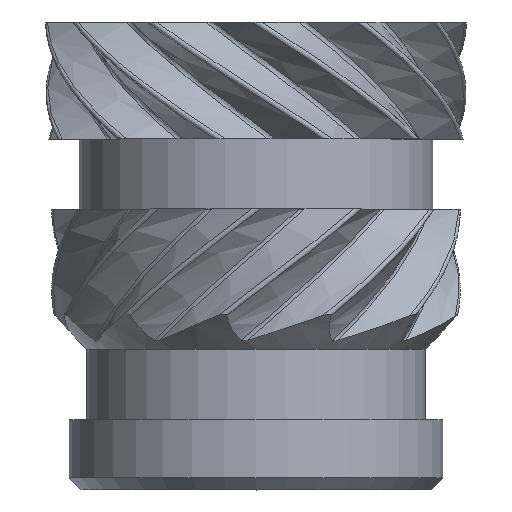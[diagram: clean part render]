
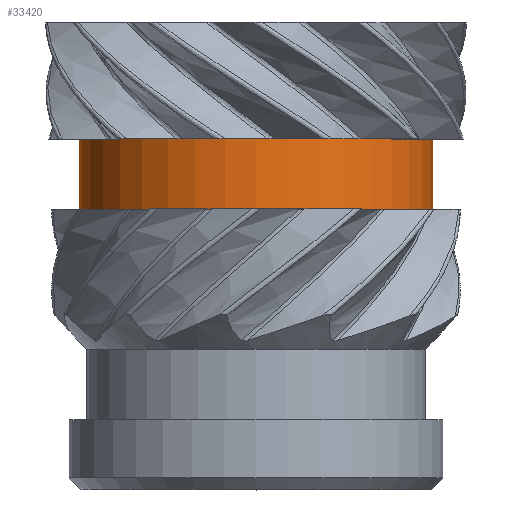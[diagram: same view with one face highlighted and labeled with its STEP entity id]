
A CAD part, top view. The second image highlights one B-rep face of the part: STEP entity #33420.
In plain terms, the highlighted cylindrical face has radius 1.515 mm (diameter 3.03 mm), a full revolution.
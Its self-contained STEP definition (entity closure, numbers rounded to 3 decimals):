
#19762 = PLANE('',#19763);
#19763 = AXIS2_PLACEMENT_3D('',#19764,#19765,#19766);
#19764 = CARTESIAN_POINT('',(-33.85,-8.8,-36.5));
#19765 = DIRECTION('',(0.,-1.,0.));
#19766 = DIRECTION('',(1.,0.,0.));
#23469 = EDGE_CURVE('',#23470,#23470,#23472,.T.);
#23470 = VERTEX_POINT('',#23471);
#23471 = CARTESIAN_POINT('',(-35.365,-8.8,-36.5));
#23472 = SURFACE_CURVE('',#23473,(#23478,#23485),.PCURVE_S1.);
#23473 = CIRCLE('',#23474,1.515);
#23474 = AXIS2_PLACEMENT_3D('',#23475,#23476,#23477);
#23475 = CARTESIAN_POINT('',(-33.85,-8.8,-36.5));
#23476 = DIRECTION('',(0.,-1.,0.));
#23477 = DIRECTION('',(1.,0.,0.));
#23478 = PCURVE('',#19762,#23479);
#23479 = DEFINITIONAL_REPRESENTATION('',(#23480),#23484);
#23480 = CIRCLE('',#23481,1.515);
#23481 = AXIS2_PLACEMENT_2D('',#23482,#23483);
#23482 = CARTESIAN_POINT('',(0.,0.));
#23483 = DIRECTION('',(1.,0.));
#23484 = ( GEOMETRIC_REPRESENTATION_CONTEXT(2) 
PARAMETRIC_REPRESENTATION_CONTEXT() REPRESENTATION_CONTEXT('2D SPACE',''
  ) );
#23485 = PCURVE('',#23486,#23491);
#23486 = CYLINDRICAL_SURFACE('',#23487,1.515);
#23487 = AXIS2_PLACEMENT_3D('',#23488,#23489,#23490);
#23488 = CARTESIAN_POINT('',(-33.85,-8.2,-36.5));
#23489 = DIRECTION('',(0.,-1.,0.));
#23490 = DIRECTION('',(1.,0.,0.));
#23491 = DEFINITIONAL_REPRESENTATION('',(#23492),#23496);
#23492 = LINE('',#23493,#23494);
#23493 = CARTESIAN_POINT('',(0.,0.6));
#23494 = VECTOR('',#23495,1.);
#23495 = DIRECTION('',(1.,0.));
#23496 = ( GEOMETRIC_REPRESENTATION_CONTEXT(2) 
PARAMETRIC_REPRESENTATION_CONTEXT() REPRESENTATION_CONTEXT('2D SPACE',''
  ) );
#33420 = ADVANCED_FACE('',(#33421),#23486,.T.);
#33421 = FACE_BOUND('',#33422,.T.);
#33422 = EDGE_LOOP('',(#33423,#33424,#33447,#33474));
#33423 = ORIENTED_EDGE('',*,*,#23469,.F.);
#33424 = ORIENTED_EDGE('',*,*,#33425,.T.);
#33425 = EDGE_CURVE('',#23470,#33426,#33428,.T.);
#33426 = VERTEX_POINT('',#33427);
#33427 = CARTESIAN_POINT('',(-35.365,-8.2,-36.5));
#33428 = SEAM_CURVE('',#33429,(#33433,#33440),.PCURVE_S1.);
#33429 = LINE('',#33430,#33431);
#33430 = CARTESIAN_POINT('',(-35.365,-8.2,-36.5));
#33431 = VECTOR('',#33432,1.);
#33432 = DIRECTION('',(0.,1.,0.));
#33433 = PCURVE('',#23486,#33434);
#33434 = DEFINITIONAL_REPRESENTATION('',(#33435),#33439);
#33435 = LINE('',#33436,#33437);
#33436 = CARTESIAN_POINT('',(3.142,0.));
#33437 = VECTOR('',#33438,1.);
#33438 = DIRECTION('',(0.,-1.));
#33439 = ( GEOMETRIC_REPRESENTATION_CONTEXT(2) 
PARAMETRIC_REPRESENTATION_CONTEXT() REPRESENTATION_CONTEXT('2D SPACE',''
  ) );
#33440 = PCURVE('',#23486,#33441);
#33441 = DEFINITIONAL_REPRESENTATION('',(#33442),#33446);
#33442 = LINE('',#33443,#33444);
#33443 = CARTESIAN_POINT('',(9.425,0.));
#33444 = VECTOR('',#33445,1.);
#33445 = DIRECTION('',(0.,-1.));
#33446 = ( GEOMETRIC_REPRESENTATION_CONTEXT(2) 
PARAMETRIC_REPRESENTATION_CONTEXT() REPRESENTATION_CONTEXT('2D SPACE',''
  ) );
#33447 = ORIENTED_EDGE('',*,*,#33448,.F.);
#33448 = EDGE_CURVE('',#33426,#33426,#33449,.T.);
#33449 = SURFACE_CURVE('',#33450,(#33455,#33462),.PCURVE_S1.);
#33450 = CIRCLE('',#33451,1.515);
#33451 = AXIS2_PLACEMENT_3D('',#33452,#33453,#33454);
#33452 = CARTESIAN_POINT('',(-33.85,-8.2,-36.5));
#33453 = DIRECTION('',(-0.,1.,0.));
#33454 = DIRECTION('',(1.,0.,0.));
#33455 = PCURVE('',#23486,#33456);
#33456 = DEFINITIONAL_REPRESENTATION('',(#33457),#33461);
#33457 = LINE('',#33458,#33459);
#33458 = CARTESIAN_POINT('',(12.566,0.));
#33459 = VECTOR('',#33460,1.);
#33460 = DIRECTION('',(-1.,0.));
#33461 = ( GEOMETRIC_REPRESENTATION_CONTEXT(2) 
PARAMETRIC_REPRESENTATION_CONTEXT() REPRESENTATION_CONTEXT('2D SPACE',''
  ) );
#33462 = PCURVE('',#33463,#33468);
#33463 = PLANE('',#33464);
#33464 = AXIS2_PLACEMENT_3D('',#33465,#33466,#33467);
#33465 = CARTESIAN_POINT('',(-33.85,-8.2,-36.5));
#33466 = DIRECTION('',(0.,1.,0.));
#33467 = DIRECTION('',(0.643,0.,-0.766));
#33468 = DEFINITIONAL_REPRESENTATION('',(#33469),#33473);
#33469 = CIRCLE('',#33470,1.515);
#33470 = AXIS2_PLACEMENT_2D('',#33471,#33472);
#33471 = CARTESIAN_POINT('',(0.,0.));
#33472 = DIRECTION('',(0.643,-0.766));
#33473 = ( GEOMETRIC_REPRESENTATION_CONTEXT(2) 
PARAMETRIC_REPRESENTATION_CONTEXT() REPRESENTATION_CONTEXT('2D SPACE',''
  ) );
#33474 = ORIENTED_EDGE('',*,*,#33425,.F.);
